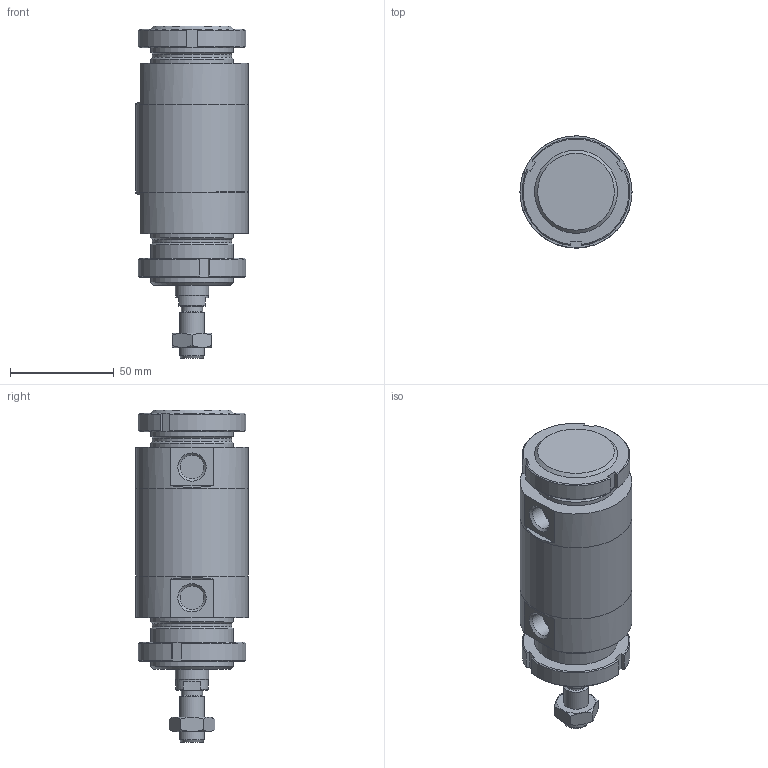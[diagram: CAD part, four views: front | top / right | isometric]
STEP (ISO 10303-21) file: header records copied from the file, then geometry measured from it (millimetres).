
FILE_DESCRIPTION(/* description */ (''),/* implementation_level */ '2;1');
FILE_NAME(/* name */ 'I:\Area Tecnica\Documenti\A-Manieri\_Inventor\12X\12X#C_###_####_#_#\12XAC_050_0000_#_#.stp',/* time_stamp */ '2015-04-28T15:19:22+02:00',/* author */ ('maniean1'),/* organization */ ('Pneumax S.p.A.'),/* preprocessor_version */ 'ST-DEVELOPER v15.2',/* originating_system */ 'Autodesk Inventor 2014',/* authorisation */ '');
FILE_SCHEMA (('AUTOMOTIVE_DESIGN { 1 0 10303 214 3 1 1 }'));
Length unit declared in the file: millimetre
Products named in the file (7): C1250_619-0000; 12X50_604; S12X50_0000; 12X_50_11; 12X50_620; G12X_050_05; 12XAC_050_0000_#_#
Bounding box: 54 x 54 x 160 mm (x, y, z)
Volume: 261421.9 mm3; surface area: 61706.7 mm2
Topology: 7 solids, 7 shells, 106 faces, 240 edges, 154 vertices
Faces by surface type: plane 52, cylinder 27, cone 27
Full cylindrical faces by diameter (mm): 10.2 x1, 11.4 x2, 12 x2, 14 x1, 15.6 x1, 16 x1, 38.2 x2, 40 x6, 50 x2, 54 x3
Entity records: 2243 total; most frequent: CARTESIAN_POINT 413, DIRECTION 382, ORIENTED_EDGE 292, AXIS2_PLACEMENT_3D 165, EDGE_CURVE 146, EDGE_LOOP 132, VERTEX_POINT 112, ADVANCED_FACE 85
